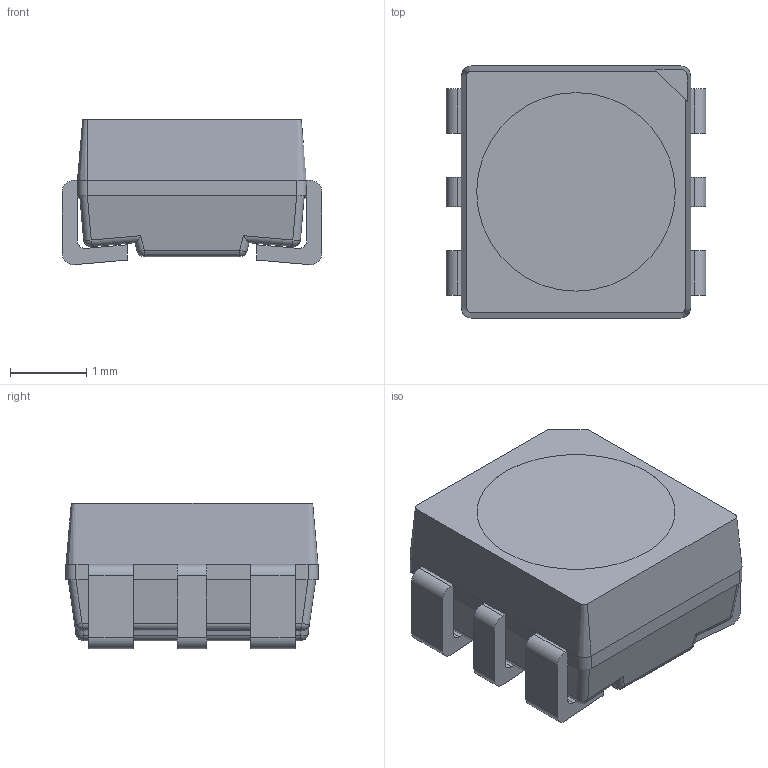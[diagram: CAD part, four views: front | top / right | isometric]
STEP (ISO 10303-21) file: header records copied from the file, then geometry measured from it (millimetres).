
FILE_DESCRIPTION (( 'STEP AP214' ), '1' );
FILE_NAME ('LWC.STEP', '2025-03-23T08:05:14', ( '' ), ( '' ), 'SwSTEP 2.0', 'SolidWorks 2022', '' );
FILE_SCHEMA (( 'AUTOMOTIVE_DESIGN' ));
Length unit declared in the file: millimetre
Products named in the file (1): LWC
Bounding box: 3.4 x 3.3 x 1.9 mm (x, y, z)
Volume: 16.9 mm3; surface area: 53.6 mm2
Topology: 1 solids, 1 shells, 140 faces, 373 edges, 237 vertices
Faces by surface type: plane 78, cylinder 48, sphere 10, bspline 2, cone 2
Entity records: 5450 total; most frequent: CARTESIAN_POINT 1176, ORIENTED_EDGE 746, DIRECTION 706, EDGE_CURVE 373, LINE 252, VECTOR 252, VERTEX_POINT 237, AXIS2_PLACEMENT_3D 227
